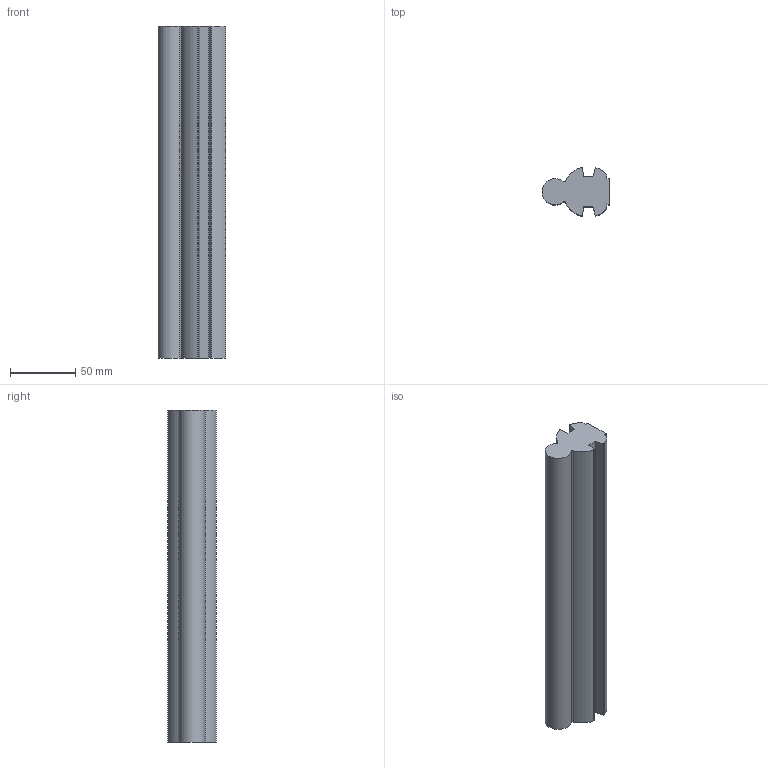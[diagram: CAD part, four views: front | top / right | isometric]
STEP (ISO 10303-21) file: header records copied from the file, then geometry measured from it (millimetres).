
FILE_DESCRIPTION(/* description */ (''),/* implementation_level */ '2;1');
FILE_NAME(/* name */ 'g3-center.step',/* time_stamp */ '2026-08-13T21:51:44-07:00',/* author */ (''),/* organization */ (''),/* preprocessor_version */ 'ST-DEVELOPER v20.1',/* originating_system */ 'Autodesk Translation Framework v15.8.0.0',/* authorisation */ '');
FILE_SCHEMA (('AUTOMOTIVE_DESIGN { 1 0 10303 214 3 1 1 }'));
Length unit declared in the file: inch
Products named in the file (2): HK_Mandrel; g3-center
Assembly tree (1 placements, depth 2):
  HK_Mandrel
    g3-center
Bounding box: 51.92 x 37.19 x 254 mm (x, y, z)
Volume: 320111.2 mm3; surface area: 48593.3 mm2
Topology: 1 solids, 1 shells, 26 faces, 71 edges, 47 vertices
Faces by surface type: plane 13, cylinder 12, cone 1
Full cylindrical faces by diameter (mm): 10.808 x1
Entity records: 881 total; most frequent: DIRECTION 152, CARTESIAN_POINT 146, ORIENTED_EDGE 140, EDGE_CURVE 70, AXIS2_PLACEMENT_3D 53, VERTEX_POINT 47, LINE 46, VECTOR 46
